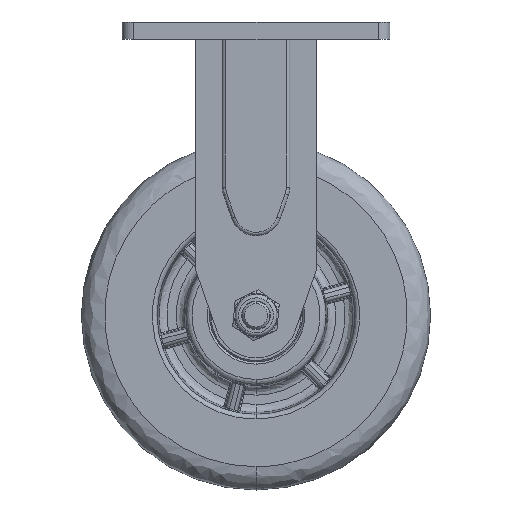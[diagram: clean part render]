
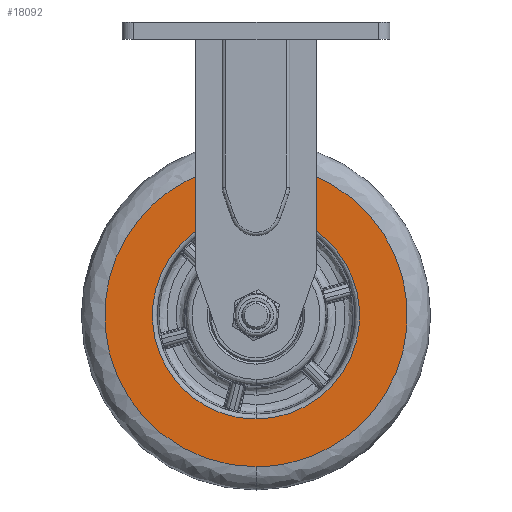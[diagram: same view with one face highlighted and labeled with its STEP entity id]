
A CAD part, front view. The second image highlights one B-rep face of the part: STEP entity #18092.
In plain terms, the highlighted planar face has unit normal (0, -1, 0).
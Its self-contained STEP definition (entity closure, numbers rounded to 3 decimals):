
#71 = CARTESIAN_POINT ( 'NONE',  ( 0., -25., -170.497 ) ) ;
#987 = FACE_OUTER_BOUND ( 'NONE', #27632, .T. ) ;
#1074 = CARTESIAN_POINT ( 'NONE',  ( 0., -25., -61. ) ) ;
#1089 =( BOUNDED_CURVE ( )  B_SPLINE_CURVE ( 3, ( #48657, #7450, #7698, #22728 ),
 .UNSPECIFIED., .F., .F. ) 
 B_SPLINE_CURVE_WITH_KNOTS ( ( 4, 4 ),
 ( 0.5, 1. ),
 .UNSPECIFIED. ) 
 CURVE ( )  GEOMETRIC_REPRESENTATION_ITEM ( )  RATIONAL_B_SPLINE_CURVE ( ( 1., 0.333, 0.333, 1. ) ) 
 REPRESENTATION_ITEM ( '' )  );
#1464 = ORIENTED_EDGE ( 'NONE', *, *, #21684, .F. ) ;
#4519 = AXIS2_PLACEMENT_3D ( 'NONE', #20693, #46623, #38979 ) ;
#5229 = CARTESIAN_POINT ( 'NONE',  ( -88.994, -25., -170.497 ) ) ;
#5886 = EDGE_CURVE ( 'NONE', #40776, #42967, #31912, .T. ) ;
#7450 = CARTESIAN_POINT ( 'NONE',  ( -130., -25., -191. ) ) ;
#7698 = CARTESIAN_POINT ( 'NONE',  ( -130., -25., -61. ) ) ;
#9523 = VERTEX_POINT ( 'NONE', #43952 ) ;
#11425 = CARTESIAN_POINT ( 'NONE',  ( 0., -25., -81.503 ) ) ;
#12151 = EDGE_CURVE ( 'NONE', #17817, #9523, #28147, .T. ) ;
#13858 = CARTESIAN_POINT ( 'NONE',  ( 0., -25., -170.497 ) ) ;
#15470 = CARTESIAN_POINT ( 'NONE',  ( 0., -25., -61. ) ) ;
#15621 = CARTESIAN_POINT ( 'NONE',  ( 130., -25., -191. ) ) ;
#16553 = EDGE_CURVE ( 'NONE', #9523, #17817, #1089, .T. ) ;
#17466 =( BOUNDED_CURVE ( )  B_SPLINE_CURVE ( 3, ( #71, #30164, #45240, #11425 ),
 .UNSPECIFIED., .F., .F. ) 
 B_SPLINE_CURVE_WITH_KNOTS ( ( 4, 4 ),
 ( 0., 0.5 ),
 .UNSPECIFIED. ) 
 CURVE ( )  GEOMETRIC_REPRESENTATION_ITEM ( )  RATIONAL_B_SPLINE_CURVE ( ( 1., 0.333, 0.333, 1. ) ) 
 REPRESENTATION_ITEM ( '' )  );
#17817 = VERTEX_POINT ( 'NONE', #15470 ) ;
#18092 = ADVANCED_FACE ( 'NONE', ( #987, #38489 ), #31078, .F. ) ;
#20148 = EDGE_LOOP ( 'NONE', ( #1464, #21322 ) ) ;
#20693 = CARTESIAN_POINT ( 'NONE',  ( 0., -25., -126. ) ) ;
#21322 = ORIENTED_EDGE ( 'NONE', *, *, #5886, .F. ) ;
#21684 = EDGE_CURVE ( 'NONE', #42967, #40776, #17466, .T. ) ;
#22728 = CARTESIAN_POINT ( 'NONE',  ( 0., -25., -61. ) ) ;
#24214 = CARTESIAN_POINT ( 'NONE',  ( 0., -25., -81.503 ) ) ;
#24535 = CARTESIAN_POINT ( 'NONE',  ( 0., -25., -81.503 ) ) ;
#27632 = EDGE_LOOP ( 'NONE', ( #44474, #46020 ) ) ;
#28147 =( BOUNDED_CURVE ( )  B_SPLINE_CURVE ( 3, ( #1074, #46466, #15621, #34648 ),
 .UNSPECIFIED., .F., .F. ) 
 B_SPLINE_CURVE_WITH_KNOTS ( ( 4, 4 ),
 ( 0., 0.5 ),
 .UNSPECIFIED. ) 
 CURVE ( )  GEOMETRIC_REPRESENTATION_ITEM ( )  RATIONAL_B_SPLINE_CURVE ( ( 1., 0.333, 0.333, 1. ) ) 
 REPRESENTATION_ITEM ( '' )  );
#30164 = CARTESIAN_POINT ( 'NONE',  ( 88.994, -25., -170.497 ) ) ;
#31078 = PLANE ( 'NONE',  #4519 ) ;
#31912 =( BOUNDED_CURVE ( )  B_SPLINE_CURVE ( 3, ( #24214, #39057, #5229, #39294 ),
 .UNSPECIFIED., .F., .F. ) 
 B_SPLINE_CURVE_WITH_KNOTS ( ( 4, 4 ),
 ( 0.5, 1. ),
 .UNSPECIFIED. ) 
 CURVE ( )  GEOMETRIC_REPRESENTATION_ITEM ( )  RATIONAL_B_SPLINE_CURVE ( ( 1., 0.333, 0.333, 1. ) ) 
 REPRESENTATION_ITEM ( '' )  );
#34648 = CARTESIAN_POINT ( 'NONE',  ( 0., -25., -191. ) ) ;
#38489 = FACE_BOUND ( 'NONE', #20148, .T. ) ;
#38979 = DIRECTION ( 'NONE',  ( 0., 0., 1. ) ) ;
#39057 = CARTESIAN_POINT ( 'NONE',  ( -88.994, -25., -81.503 ) ) ;
#39294 = CARTESIAN_POINT ( 'NONE',  ( 0., -25., -170.497 ) ) ;
#40776 = VERTEX_POINT ( 'NONE', #24535 ) ;
#42967 = VERTEX_POINT ( 'NONE', #13858 ) ;
#43952 = CARTESIAN_POINT ( 'NONE',  ( 0., -25., -191. ) ) ;
#44474 = ORIENTED_EDGE ( 'NONE', *, *, #16553, .F. ) ;
#45240 = CARTESIAN_POINT ( 'NONE',  ( 88.994, -25., -81.503 ) ) ;
#46020 = ORIENTED_EDGE ( 'NONE', *, *, #12151, .F. ) ;
#46466 = CARTESIAN_POINT ( 'NONE',  ( 130., -25., -61. ) ) ;
#46623 = DIRECTION ( 'NONE',  ( 0., 1., 0. ) ) ;
#48657 = CARTESIAN_POINT ( 'NONE',  ( 0., -25., -191. ) ) ;
